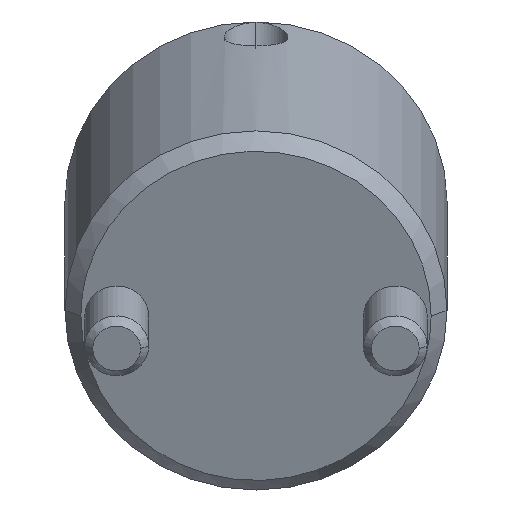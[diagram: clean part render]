
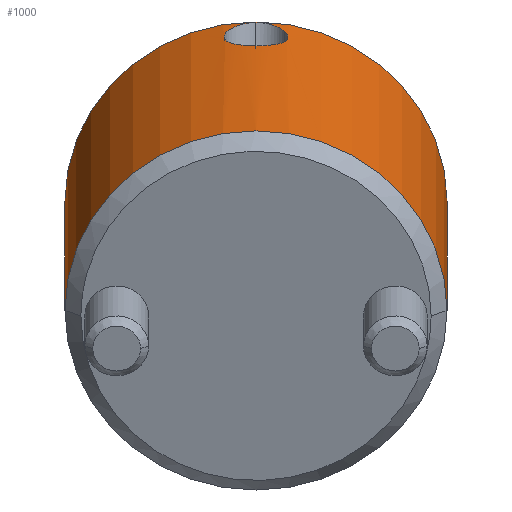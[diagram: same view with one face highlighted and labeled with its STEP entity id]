
A CAD part, front view. The second image highlights one B-rep face of the part: STEP entity #1000.
In plain terms, the highlighted cylindrical face has radius 12 mm (diameter 24 mm), a partial arc.
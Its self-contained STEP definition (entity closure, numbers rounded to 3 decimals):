
#778=CARTESIAN_POINT('Vertex',(0.,12.,1.)) ;
#781=CARTESIAN_POINT('Axis2P3D Location',(0.,0.,1.)) ;
#785=CARTESIAN_POINT('Vertex',(0.,-12.,1.)) ;
#925=CARTESIAN_POINT('Axis2P3D Location',(0.,0.,-1.1)) ;
#930=CARTESIAN_POINT('Line Origine',(0.,12.,-1.1)) ;
#934=CARTESIAN_POINT('Vertex',(0.,12.,21.)) ;
#937=CARTESIAN_POINT('Axis2P3D Location',(0.,0.,21.)) ;
#941=CARTESIAN_POINT('Vertex',(0.,-12.,21.)) ;
#944=CARTESIAN_POINT('Line Origine',(0.,-12.,-1.1)) ;
#956=CARTESIAN_POINT('Control Point',(12.,0.,20.893)) ;
#957=CARTESIAN_POINT('Control Point',(12.,0.268,20.893)) ;
#958=CARTESIAN_POINT('Control Point',(11.992,0.53,20.843)) ;
#959=CARTESIAN_POINT('Control Point',(11.978,0.783,20.744)) ;
#960=CARTESIAN_POINT('Control Point',(11.933,1.321,20.418)) ;
#961=CARTESIAN_POINT('Control Point',(11.879,1.716,19.904)) ;
#962=CARTESIAN_POINT('Control Point',(11.852,1.88,19.565)) ;
#963=CARTESIAN_POINT('Control Point',(11.824,2.049,18.918)) ;
#964=CARTESIAN_POINT('Control Point',(11.835,1.984,18.258)) ;
#965=CARTESIAN_POINT('Control Point',(11.848,1.909,17.977)) ;
#966=CARTESIAN_POINT('Control Point',(11.881,1.698,17.525)) ;
#967=CARTESIAN_POINT('Control Point',(11.923,1.368,17.161)) ;
#968=CARTESIAN_POINT('Control Point',(11.941,1.21,17.027)) ;
#969=CARTESIAN_POINT('Control Point',(11.97,0.887,16.819)) ;
#970=CARTESIAN_POINT('Control Point',(11.99,0.524,16.694)) ;
#971=CARTESIAN_POINT('Control Point',(11.997,0.351,16.655)) ;
#972=CARTESIAN_POINT('Control Point',(12.,0.177,16.636)) ;
#973=CARTESIAN_POINT('Control Point',(12.,0.,16.636)) ;
#974=CARTESIAN_POINT('Vertex',(12.,0.,20.893)) ;
#976=CARTESIAN_POINT('Vertex',(12.,0.,16.636)) ;
#980=CARTESIAN_POINT('Control Point',(12.,0.,16.636)) ;
#981=CARTESIAN_POINT('Control Point',(12.,-0.345,16.636)) ;
#982=CARTESIAN_POINT('Control Point',(11.988,-0.682,16.709)) ;
#983=CARTESIAN_POINT('Control Point',(11.963,-1.01,16.859)) ;
#984=CARTESIAN_POINT('Control Point',(11.902,-1.572,17.29)) ;
#985=CARTESIAN_POINT('Control Point',(11.849,-1.907,17.922)) ;
#986=CARTESIAN_POINT('Control Point',(11.831,-2.004,18.275)) ;
#987=CARTESIAN_POINT('Control Point',(11.824,-2.05,19.014)) ;
#988=CARTESIAN_POINT('Control Point',(11.863,-1.815,19.715)) ;
#989=CARTESIAN_POINT('Control Point',(11.893,-1.627,20.043)) ;
#990=CARTESIAN_POINT('Control Point',(11.944,-1.221,20.5)) ;
#991=CARTESIAN_POINT('Control Point',(11.983,-0.694,20.776)) ;
#992=CARTESIAN_POINT('Control Point',(11.994,-0.47,20.854)) ;
#993=CARTESIAN_POINT('Control Point',(12.,-0.237,20.893)) ;
#994=CARTESIAN_POINT('Control Point',(12.,0.,20.893)) ;
#782=DIRECTION('Axis2P3D Direction',(0.,0.,1.)) ;
#926=DIRECTION('Axis2P3D Direction',(0.,-0.,1.)) ;
#927=DIRECTION('Axis2P3D XDirection',(0.,-1.,0.)) ;
#931=DIRECTION('Vector Direction',(0.,0.,1.)) ;
#938=DIRECTION('Axis2P3D Direction',(0.,-0.,1.)) ;
#945=DIRECTION('Vector Direction',(0.,0.,1.)) ;
#783=AXIS2_PLACEMENT_3D('Circle Axis2P3D',#781,#782,$) ;
#928=AXIS2_PLACEMENT_3D('Cylinder Axis2P3D',#925,#926,#927) ;
#939=AXIS2_PLACEMENT_3D('Circle Axis2P3D',#937,#938,$) ;
#950=ORIENTED_EDGE('',*,*,#936,.F.) ;
#951=ORIENTED_EDGE('',*,*,#943,.T.) ;
#952=ORIENTED_EDGE('',*,*,#948,.T.) ;
#953=ORIENTED_EDGE('',*,*,#787,.F.) ;
#997=ORIENTED_EDGE('',*,*,#978,.T.) ;
#998=ORIENTED_EDGE('',*,*,#995,.T.) ;
#999=FACE_BOUND('',#996,.T.) ;
#932=VECTOR('Line Direction',#931,1.) ;
#946=VECTOR('Line Direction',#945,1.) ;
#1000=ADVANCED_FACE('MANIFOLD_SOLID_BREP #1099',(#954,#999),#929,.T.) ;
#955=B_SPLINE_CURVE_WITH_KNOTS('',5,(#956,#957,#958,#959,#960,#961,#962,#963,#964,#965,#966,#967,#968,#969,#970,#971,#972,#973),.UNSPECIFIED.,.F.,.U.,(6,3,3,3,3,6),(0.,1.901,4.48,6.478,7.949,9.197),.UNSPECIFIED.) ;
#979=B_SPLINE_CURVE_WITH_KNOTS('',5,(#980,#981,#982,#983,#984,#985,#986,#987,#988,#989,#990,#991,#992,#993,#994),.UNSPECIFIED.,.F.,.U.,(6,3,3,3,6),(0.,2.447,4.948,7.517,9.195),.UNSPECIFIED.) ;
#784=CIRCLE('generated circle',#783,12.) ;
#940=CIRCLE('generated circle',#939,12.) ;
#929=CYLINDRICAL_SURFACE('generated cylinder',#928,12.) ;
#787=EDGE_CURVE('',#779,#786,#784,.F.) ;
#936=EDGE_CURVE('',#935,#779,#933,.F.) ;
#943=EDGE_CURVE('',#935,#942,#940,.F.) ;
#948=EDGE_CURVE('',#942,#786,#947,.F.) ;
#978=EDGE_CURVE('',#975,#977,#955,.T.) ;
#995=EDGE_CURVE('',#977,#975,#979,.T.) ;
#949=EDGE_LOOP('',(#950,#951,#952,#953)) ;
#996=EDGE_LOOP('',(#997,#998)) ;
#954=FACE_OUTER_BOUND('',#949,.T.) ;
#933=LINE('Line',#930,#932) ;
#947=LINE('Line',#944,#946) ;
#779=VERTEX_POINT('',#778) ;
#786=VERTEX_POINT('',#785) ;
#935=VERTEX_POINT('',#934) ;
#942=VERTEX_POINT('',#941) ;
#975=VERTEX_POINT('',#974) ;
#977=VERTEX_POINT('',#976) ;
